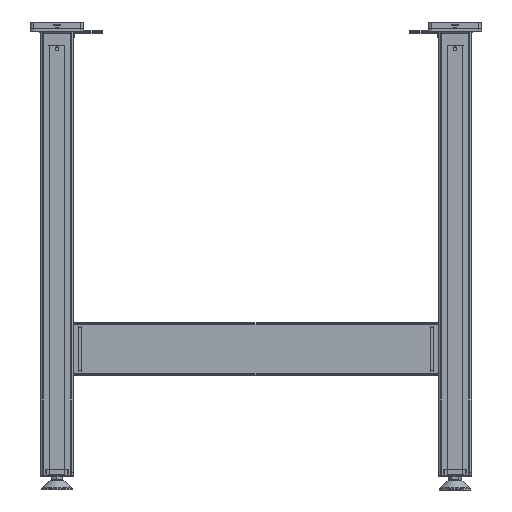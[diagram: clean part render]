
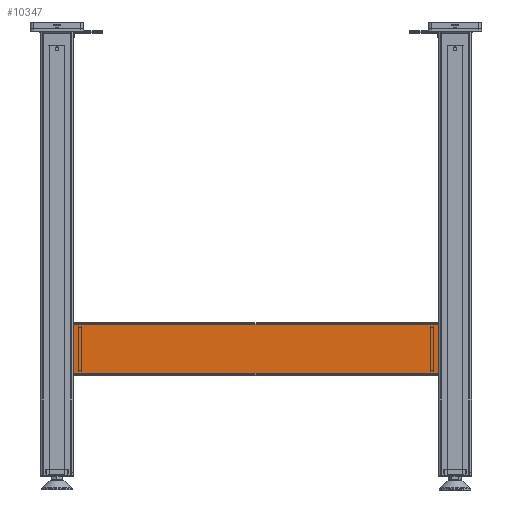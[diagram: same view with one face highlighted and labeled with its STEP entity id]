
A CAD part, front view. The second image highlights one B-rep face of the part: STEP entity #10347.
In plain terms, the highlighted planar face has unit normal (0, -1, 0) as drawn and (0, 0, 1) by its records, which use the part's own axes.
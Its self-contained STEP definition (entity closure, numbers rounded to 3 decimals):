
#2718=ORIENTED_EDGE('',*,*,#4180,.F.);
#2719=ORIENTED_EDGE('',*,*,#4179,.F.);
#2720=ORIENTED_EDGE('',*,*,#4181,.T.);
#2721=ORIENTED_EDGE('',*,*,#4182,.T.);
#4179=EDGE_CURVE('',#5074,#5073,#5778,.T.);
#4180=EDGE_CURVE('',#5073,#5075,#5779,.T.);
#4181=EDGE_CURVE('',#5074,#5076,#5780,.T.);
#4182=EDGE_CURVE('',#5076,#5075,#5781,.T.);
#5073=VERTEX_POINT('',#16365);
#5074=VERTEX_POINT('',#16367);
#5075=VERTEX_POINT('',#16371);
#5076=VERTEX_POINT('',#16373);
#5778=LINE('',#16368,#6433);
#5779=LINE('',#16370,#6434);
#5780=LINE('',#16372,#6435);
#5781=LINE('',#16374,#6436);
#6433=VECTOR('',#13646,1000.);
#6434=VECTOR('',#13649,1000.);
#6435=VECTOR('',#13650,1000.);
#6436=VECTOR('',#13651,1000.);
#7107=EDGE_LOOP('',(#2718,#2719,#2720,#2721));
#7903=FACE_BOUND('',#7107,.T.);
#8372=PLANE('',#11378);
#10347=ADVANCED_FACE('',(#7903),#8372,.T.);
#11378=AXIS2_PLACEMENT_3D('',#16369,#13647,#13648);
#13646=DIRECTION('',(0.,-1.,0.));
#13647=DIRECTION('',(0.,0.,1.));
#13648=DIRECTION('',(1.,0.,0.));
#13649=DIRECTION('',(-1.,0.,0.));
#13650=DIRECTION('',(-1.,0.,0.));
#13651=DIRECTION('',(0.,-1.,0.));
#16365=CARTESIAN_POINT('',(38.,0.,25.));
#16367=CARTESIAN_POINT('',(38.,550.,25.));
#16368=CARTESIAN_POINT('',(38.,550.,25.));
#16369=CARTESIAN_POINT('',(38.,550.,25.));
#16370=CARTESIAN_POINT('',(38.,0.,25.));
#16371=CARTESIAN_POINT('',(-38.,0.,25.));
#16372=CARTESIAN_POINT('',(38.,550.,25.));
#16373=CARTESIAN_POINT('',(-38.,550.,25.));
#16374=CARTESIAN_POINT('',(-38.,550.,25.));
